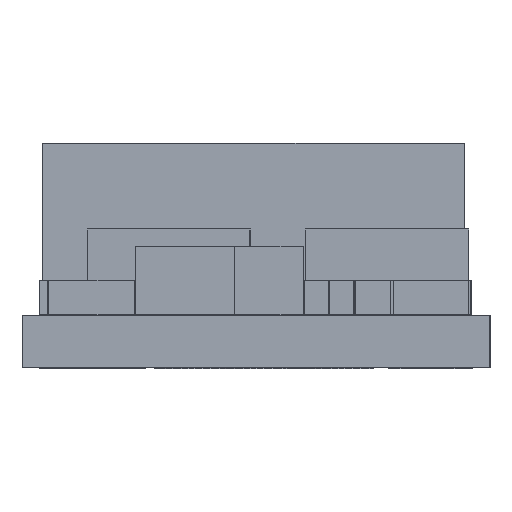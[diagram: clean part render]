
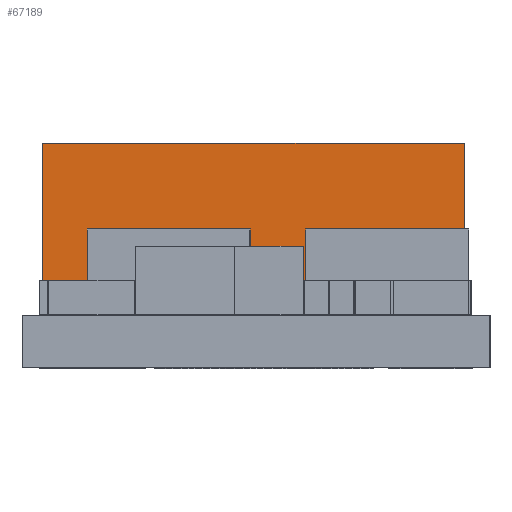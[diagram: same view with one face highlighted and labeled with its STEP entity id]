
A CAD part, left-side view. The second image highlights one B-rep face of the part: STEP entity #67189.
In plain terms, the highlighted planar face has unit normal (-1, 0, 0).
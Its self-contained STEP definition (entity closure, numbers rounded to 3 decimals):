
#66900 = VERTEX_POINT('',#66901);
#66901 = CARTESIAN_POINT('',(22.377,13.259,6.706));
#66910 = PLANE('',#66911);
#66911 = AXIS2_PLACEMENT_3D('',#66912,#66913,#66914);
#66912 = CARTESIAN_POINT('',(29.375,7.01,6.706));
#66913 = DIRECTION('',(0.,0.,1.));
#66914 = DIRECTION('',(1.,0.,0.));
#66922 = PLANE('',#66923);
#66923 = AXIS2_PLACEMENT_3D('',#66924,#66925,#66926);
#66924 = CARTESIAN_POINT('',(22.377,13.259,1.626));
#66925 = DIRECTION('',(0.,-1.,0.));
#66926 = DIRECTION('',(0.,0.,-1.));
#66934 = EDGE_CURVE('',#66935,#66900,#66937,.T.);
#66935 = VERTEX_POINT('',#66936);
#66936 = CARTESIAN_POINT('',(22.377,0.762,6.706));
#66937 = SURFACE_CURVE('',#66938,(#66942,#66949),.PCURVE_S1.);
#66938 = LINE('',#66939,#66940);
#66939 = CARTESIAN_POINT('',(22.377,7.01,6.706));
#66940 = VECTOR('',#66941,1.);
#66941 = DIRECTION('',(0.,1.,0.));
#66942 = PCURVE('',#66910,#66943);
#66943 = DEFINITIONAL_REPRESENTATION('',(#66944),#66948);
#66944 = LINE('',#66945,#66946);
#66945 = CARTESIAN_POINT('',(-6.998,0.));
#66946 = VECTOR('',#66947,1.);
#66947 = DIRECTION('',(0.,1.));
#66948 = ( GEOMETRIC_REPRESENTATION_CONTEXT(2) 
PARAMETRIC_REPRESENTATION_CONTEXT() REPRESENTATION_CONTEXT('2D SPACE',''
  ) );
#66949 = PCURVE('',#66950,#66955);
#66950 = PLANE('',#66951);
#66951 = AXIS2_PLACEMENT_3D('',#66952,#66953,#66954);
#66952 = CARTESIAN_POINT('',(22.377,0.762,1.626));
#66953 = DIRECTION('',(1.,0.,0.));
#66954 = DIRECTION('',(0.,0.,-1.));
#66955 = DEFINITIONAL_REPRESENTATION('',(#66956),#66960);
#66956 = LINE('',#66957,#66958);
#66957 = CARTESIAN_POINT('',(-5.08,6.248));
#66958 = VECTOR('',#66959,1.);
#66959 = DIRECTION('',(0.,1.));
#66960 = ( GEOMETRIC_REPRESENTATION_CONTEXT(2) 
PARAMETRIC_REPRESENTATION_CONTEXT() REPRESENTATION_CONTEXT('2D SPACE',''
  ) );
#66978 = PLANE('',#66979);
#66979 = AXIS2_PLACEMENT_3D('',#66980,#66981,#66982);
#66980 = CARTESIAN_POINT('',(36.373,0.762,1.626));
#66981 = DIRECTION('',(0.,1.,0.));
#66982 = DIRECTION('',(0.,0.,1.));
#67020 = VERTEX_POINT('',#67021);
#67021 = CARTESIAN_POINT('',(22.377,13.259,1.626));
#67030 = PLANE('',#67031);
#67031 = AXIS2_PLACEMENT_3D('',#67032,#67033,#67034);
#67032 = CARTESIAN_POINT('',(29.375,7.01,1.626));
#67033 = DIRECTION('',(0.,0.,1.));
#67034 = DIRECTION('',(1.,0.,0.));
#67073 = VERTEX_POINT('',#67074);
#67074 = CARTESIAN_POINT('',(22.377,0.762,1.626));
#67095 = EDGE_CURVE('',#67073,#67020,#67096,.T.);
#67096 = SURFACE_CURVE('',#67097,(#67101,#67108),.PCURVE_S1.);
#67097 = LINE('',#67098,#67099);
#67098 = CARTESIAN_POINT('',(22.377,0.762,1.626));
#67099 = VECTOR('',#67100,1.);
#67100 = DIRECTION('',(0.,1.,0.));
#67101 = PCURVE('',#67030,#67102);
#67102 = DEFINITIONAL_REPRESENTATION('',(#67103),#67107);
#67103 = LINE('',#67104,#67105);
#67104 = CARTESIAN_POINT('',(-6.998,-6.248));
#67105 = VECTOR('',#67106,1.);
#67106 = DIRECTION('',(0.,1.));
#67107 = ( GEOMETRIC_REPRESENTATION_CONTEXT(2) 
PARAMETRIC_REPRESENTATION_CONTEXT() REPRESENTATION_CONTEXT('2D SPACE',''
  ) );
#67108 = PCURVE('',#66950,#67109);
#67109 = DEFINITIONAL_REPRESENTATION('',(#67110),#67114);
#67110 = LINE('',#67111,#67112);
#67111 = CARTESIAN_POINT('',(0.,0.));
#67112 = VECTOR('',#67113,1.);
#67113 = DIRECTION('',(0.,1.));
#67114 = ( GEOMETRIC_REPRESENTATION_CONTEXT(2) 
PARAMETRIC_REPRESENTATION_CONTEXT() REPRESENTATION_CONTEXT('2D SPACE',''
  ) );
#67167 = EDGE_CURVE('',#66935,#67073,#67168,.T.);
#67168 = SURFACE_CURVE('',#67169,(#67173,#67180),.PCURVE_S1.);
#67169 = LINE('',#67170,#67171);
#67170 = CARTESIAN_POINT('',(22.377,0.762,4.166));
#67171 = VECTOR('',#67172,1.);
#67172 = DIRECTION('',(-0.,-0.,-1.));
#67173 = PCURVE('',#66978,#67174);
#67174 = DEFINITIONAL_REPRESENTATION('',(#67175),#67179);
#67175 = LINE('',#67176,#67177);
#67176 = CARTESIAN_POINT('',(2.54,-13.995));
#67177 = VECTOR('',#67178,1.);
#67178 = DIRECTION('',(-1.,0.));
#67179 = ( GEOMETRIC_REPRESENTATION_CONTEXT(2) 
PARAMETRIC_REPRESENTATION_CONTEXT() REPRESENTATION_CONTEXT('2D SPACE',''
  ) );
#67180 = PCURVE('',#66950,#67181);
#67181 = DEFINITIONAL_REPRESENTATION('',(#67182),#67186);
#67182 = LINE('',#67183,#67184);
#67183 = CARTESIAN_POINT('',(-2.54,0.));
#67184 = VECTOR('',#67185,1.);
#67185 = DIRECTION('',(1.,0.));
#67186 = ( GEOMETRIC_REPRESENTATION_CONTEXT(2) 
PARAMETRIC_REPRESENTATION_CONTEXT() REPRESENTATION_CONTEXT('2D SPACE',''
  ) );
#67189 = ADVANCED_FACE('',(#67190),#66950,.F.);
#67190 = FACE_BOUND('',#67191,.T.);
#67191 = EDGE_LOOP('',(#67192,#67193,#67214,#67215));
#67192 = ORIENTED_EDGE('',*,*,#66934,.T.);
#67193 = ORIENTED_EDGE('',*,*,#67194,.T.);
#67194 = EDGE_CURVE('',#66900,#67020,#67195,.T.);
#67195 = SURFACE_CURVE('',#67196,(#67200,#67207),.PCURVE_S1.);
#67196 = LINE('',#67197,#67198);
#67197 = CARTESIAN_POINT('',(22.377,13.259,4.166));
#67198 = VECTOR('',#67199,1.);
#67199 = DIRECTION('',(-0.,-0.,-1.));
#67200 = PCURVE('',#66950,#67201);
#67201 = DEFINITIONAL_REPRESENTATION('',(#67202),#67206);
#67202 = LINE('',#67203,#67204);
#67203 = CARTESIAN_POINT('',(-2.54,12.497));
#67204 = VECTOR('',#67205,1.);
#67205 = DIRECTION('',(1.,0.));
#67206 = ( GEOMETRIC_REPRESENTATION_CONTEXT(2) 
PARAMETRIC_REPRESENTATION_CONTEXT() REPRESENTATION_CONTEXT('2D SPACE',''
  ) );
#67207 = PCURVE('',#66922,#67208);
#67208 = DEFINITIONAL_REPRESENTATION('',(#67209),#67213);
#67209 = LINE('',#67210,#67211);
#67210 = CARTESIAN_POINT('',(-2.54,0.));
#67211 = VECTOR('',#67212,1.);
#67212 = DIRECTION('',(1.,0.));
#67213 = ( GEOMETRIC_REPRESENTATION_CONTEXT(2) 
PARAMETRIC_REPRESENTATION_CONTEXT() REPRESENTATION_CONTEXT('2D SPACE',''
  ) );
#67214 = ORIENTED_EDGE('',*,*,#67095,.F.);
#67215 = ORIENTED_EDGE('',*,*,#67167,.F.);
